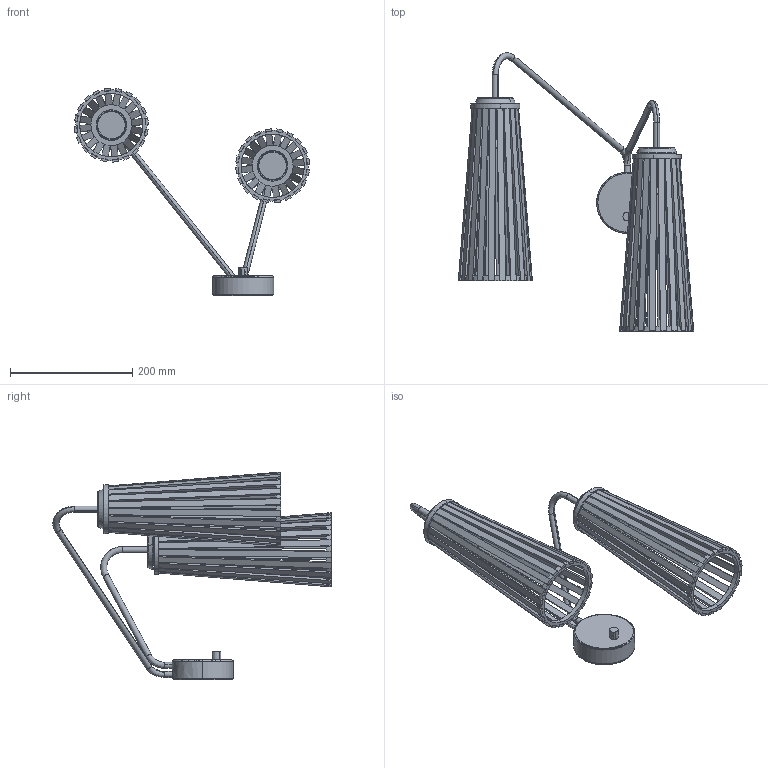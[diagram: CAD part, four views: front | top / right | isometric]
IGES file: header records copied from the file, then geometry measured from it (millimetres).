
Start section: SolidWorks IGES file using analytic representation for surfaces
Global section: file name: F:\GABRYSIA\MODELE 3D\DOVER-9260-9265-WWW\DOVER-9260-9265\DOVER-9260-9265.IGS; native system: SolidWorks 2017; preprocessor: SolidWorks 2017; author: Togambi; date: 200923.142950; units: millimetre
Bounding box: 385.46 x 455.66 x 340.27 mm (x, y, z)
Surface area: 561225.9 mm2 (no closed solid volume)
Topology: 0 solids, 0 shells, 1280 faces, 15349 edges, 15341 vertices
Faces by surface type: bspline 808, revolution 472
